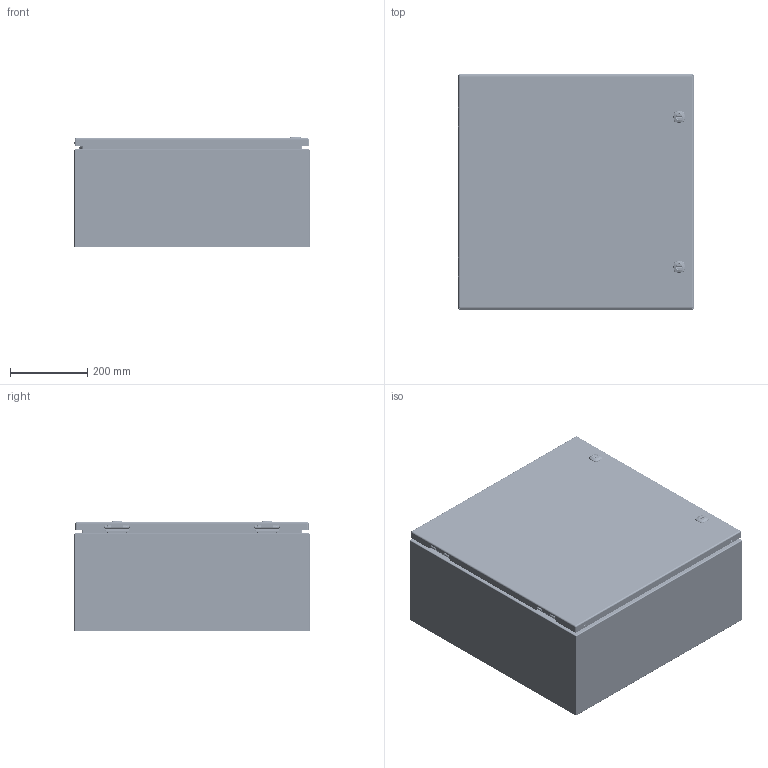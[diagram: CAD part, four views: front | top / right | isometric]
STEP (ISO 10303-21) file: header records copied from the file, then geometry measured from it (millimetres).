
FILE_DESCRIPTION(/* description */ ('5412ES 24" x 24" x 10" Assembly'),/* implementation_level */ '2;1');
FILE_NAME(/* name */ '5412ESB242410.stp',/* time_stamp */ '2024-01-17T17:25:23-05:00',/* author */ ('BoxCad'),/* organization */ (''),/* preprocessor_version */ 'ST-DEVELOPER v20',/* originating_system */ 'Autodesk Inventor 2024',/* authorisation */ '');
FILE_SCHEMA (('AUTOMOTIVE_DESIGN { 1 0 10303 214 3 1 1 }'));
Products named in the file (43): 5412ESB242410; 5412ESB242410B; 5412ESB242410B-P; STK-Q-16005; STUD_M6 x 16mm; 5412ESB242410C; 5412ESB242410C-P; 5412ESB242410G; STK-K-09800; STK-K-09800-2; STK-Q-33014; STK-Q-90398; STK-Q-40095; STK-Q-63410; STK-Q-16055; STK-Q-46020-24; STK-Q-07220-1; STK-Q-07220-2; STK-Q-07220-3; STK-Q-07220-4; STK-Q-07220-A; STK-Q-07220-B; STK-P-03820R; STK-S-00100; STK-K-12500; STK-Q-78111; STK-Q-78141; STK-Q-78120; STK-Q-78145; STK-Q-03200; STK-Q-78160; STK-Q-90390; STK-Q-78111-R; STK-Q-04050-08-1; STK-Q-04050-08-2; STK-Q-04050-08-P; STK-Q-04051-N; STK-A-01800; 5412ESB242410IPK; STK-Q-07610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
Assembly tree (73 placements, depth 4):
  5412ESB242410
    5412ESB242410B
      5412ESB242410B-P
      STK-Q-16005  x4
      STK-P-03820R
      STUD_M6 x 16mm
    5412ESB242410C
      5412ESB242410C-P
      5412ESB242410G
      STK-K-09800
        STK-Q-33014
        STK-Q-90398
        STK-Q-40095  x2
        STK-Q-63410  x2
      STK-K-09800-2
        STK-Q-33014
        STK-Q-90398
        STK-Q-40095  x2
        STK-Q-63410  x2
      STK-Q-16055  x4
      STK-Q-46020-24  x2
      STK-Q-07220-1
        STK-Q-07220-A
        STK-Q-07220-B
      STK-Q-07220-2
        STK-Q-07220-A
        STK-Q-07220-B
      STK-Q-07220-3
        STK-Q-07220-A
        STK-Q-07220-B
      STK-Q-07220-4
        STK-Q-07220-A
        STK-Q-07220-B
      STK-P-03820R
      STK-S-00100
      STK-K-12500  x2
        STK-Q-78111
        STK-Q-78141
        STK-Q-78120
        STK-Q-78145
        STK-Q-03200
        STK-Q-78160
        STK-Q-90390
        STK-Q-78111-R
    STK-Q-04050-08-1
      STK-Q-04050-08-P
      STK-Q-04051-N
    STK-Q-04050-08-2
      STK-Q-04050-08-P
      STK-Q-04051-N
    STK-A-01800
    5412ESB242410IPK
      STK-Q-07610  x4
      STK-Q-07310  x4
    881SP2424G
      881SP2424G-P
Bounding box: 609.67 x 609.6 x 287.27 mm (x, y, z)
Volume: 3143475.2 mm3; surface area: 3920934 mm2
Topology: 64 solids, 64 shells, 9812 faces, 25937 edges, 16272 vertices
Faces by surface type: bspline 3330, plane 2831, cylinder 2600, torus 695, sphere 220, cone 136
Full cylindrical faces by diameter (mm): 0 x1, 0.75 x9, 0.762 x9, 1 x8, 1.1 x8, 3.2 x4, 4.191 x40, 4.5 x4, 4.521 x8, 4.75 x2, 4.85 x16, 4.95 x4, 5 x4, 5.1 x30, 5.156 x4, 5.6 x2, 5.9 x25, 6.015 x40, 6.65 x4, 6.8 x4, 6.85 x8, 7.3 x2, 7.366 x4, 7.9 x8, 8 x12, 8.382 x2, 9.5 x4, 9.6 x2, 9.906 x4, 10 x2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
Entity records: 153262 total; most frequent: CARTESIAN_POINT 61044, ORIENTED_EDGE 20842, DIRECTION 15758, EDGE_CURVE 10421, VERTEX_POINT 6524, AXIS2_PLACEMENT_3D 5806, EDGE_LOOP 4319, LINE 4146
